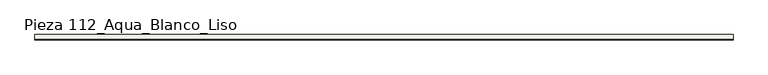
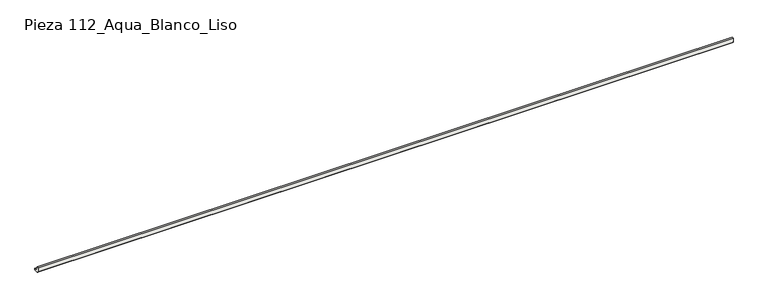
"""IFC4 building model written with IfcOpenShell, lengths in millimetres: slab geometry, ROSA GRES_112 : Pieza 112_Aqua_Blanco_Liso."""

from ifc_helpers import new_model, si_unit, point, frame, frame_2d, origin, place, context, project, spatial, polyline, circle_curve, trimmed, segment, composite_curve, outline, extrude, source, transform, mapped, element, save


def pieza_112_aqua_blanco_liso_2d5796d6(model_context):
    return source(origin(), model_context, "Body", "SweptSolid", [
        extrude(outline(composite_curve([segment(polyline([(0.0, 8.7114978), (0.0, 40.0), (9.9734114, 40.0)]), True, "CONTINUOUS"), segment(trimmed(circle_curve(frame_2d((39.9955547, 39.9955547)), 30.0221435), [point((9.9734114, 40.0))], [point((40.0, 9.9734114))], True, "CARTESIAN"), True, "CONTINUOUS"), segment(polyline([(40.0, 9.9734114), (40.0, 0.0), (8.7114978, 0.0), (0.0, 8.7114978)]), True, "CONTINUOUS")], self_intersect=False)), frame((0.0, 0.0, 0.0), z_axis=(1.0, 0.0, 0.0), x_axis=(0.0, 1.0, 0.0)), (0.0, 0.0, 1.0), 5018.1646779),
    ])


if __name__ == "__main__":
    model = new_model("IFC4")
    model_context = context("Model", 3, world=origin())
    ifc_project = project(units=[si_unit("LENGTHUNIT", "METRE", prefix="MILLI")], contexts=[model_context])
    site = spatial("IfcSite", under=ifc_project)
    building = spatial("IfcBuilding", under=site)
    placement = place(None, origin())
    pieza_112_aqua_blanco_liso_shape = pieza_112_aqua_blanco_liso_2d5796d6(model_context)
    element("IfcSlab", 1, ObjectType="ROSA GRES_112 : Pieza 112_Aqua_Blanco_Liso", at=placement, inside=building, context=model_context, shape_type="MappedRepresentation", body=[
        mapped(pieza_112_aqua_blanco_liso_shape, transform((0.0, 0.0, 0.0), x_axis=(1.0, 0.0, 0.0), y_axis=(0.0, 1.0, 0.0), z_axis=(0.0, 0.0, 1.0))),
    ])
    save(model, "model.ifc")
